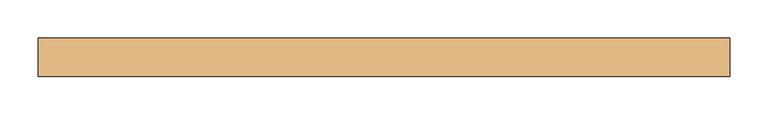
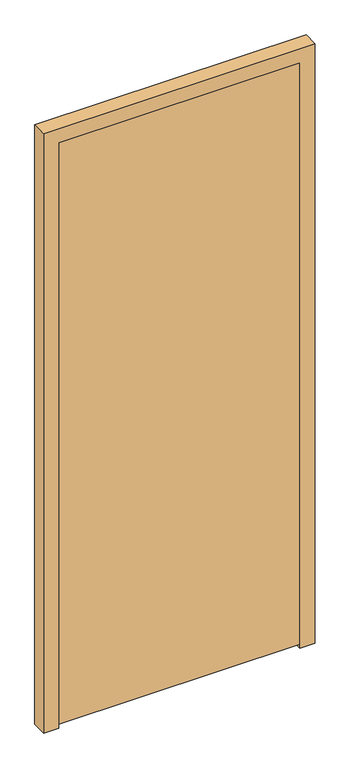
"""IFC4 building model written with IfcOpenShell, lengths in millimetres: door geometry, Dr_Дверь_v2.1 : ДМ Мд1 Зв3 Оп Г Брг 21-9 Л."""

import ifcopenshell
import ifcopenshell.guid

model = None  # the IFC model being written
_history = None  # IfcOwnerHistory: only IFC2X3 demands one
_inside = {}  # id of a spatial element -> (the spatial element, [elements in it])
_under = {}  # id of a project, library or spatial element -> (it, [spatial elements below it])
_declared = {}  # id of a project -> (the project, [libraries it declares])
_typed = {}  # id of a type object -> (the type object, [elements of that type])
_made_of = {}  # id of a material, layer set ... -> (it, [elements and type objects made of it])


def new_model(schema):
    """Start an empty IFC model of exactly this schema.

    Asked for "IFC4X3", IfcOpenShell would pick the latest addendum, in which some entities
    have other attributes; the version numbers below select the first issue.
    IFC2X3 requires an IfcOwnerHistory on every rooted entity: one is made here for all.
    """
    global model, _history
    if schema == "IFC4X3":
        model = ifcopenshell.file(schema_version=(4, 3, 0, 0))
    else:
        model = ifcopenshell.file(schema=schema)
    _inside.clear()
    _under.clear()
    _declared.clear()
    _typed.clear()
    _made_of.clear()
    _history = None
    if model.schema == "IFC2X3":
        org = make("IfcOrganization", Name="unknown")
        user = make(
            "IfcPersonAndOrganization",
            ThePerson=make("IfcPerson", FamilyName="unknown"),
            TheOrganization=org,
        )
        app = make(
            "IfcApplication",
            ApplicationDeveloper=org,
            Version="unknown",
            ApplicationFullName="unknown",
            ApplicationIdentifier="unknown",
        )
        _history = make(
            "IfcOwnerHistory",
            OwningUser=user,
            OwningApplication=app,
            ChangeAction="ADDED",
            CreationDate=0,
        )
    return model


def make(cls, **values):
    """One entity of the class cls with the attributes given. An attribute that is None is left unset."""
    return model.create_entity(
        cls, **{name: value for name, value in values.items() if value is not None}
    )


def rooted(cls, **values):
    """An entity with a GlobalId (a new one), such as an element, a storey or a relation."""
    return make(cls, GlobalId=ifcopenshell.guid.new(), OwnerHistory=_history, **values)


def si_unit(unit_type, name, prefix=None):
    """IfcSIUnit, for example si_unit("LENGTHUNIT", "METRE", prefix="MILLI")."""
    return make("IfcSIUnit", UnitType=unit_type, Prefix=prefix, Name=name)


def assignment(units):
    """IfcUnitAssignment: the units of a project."""
    return None if units is None else make("IfcUnitAssignment", Units=units)


def point(xyz):
    """IfcCartesianPoint."""
    return None if xyz is None else make("IfcCartesianPoint", Coordinates=xyz)


def direction(xyz):
    """IfcDirection."""
    return None if xyz is None else make("IfcDirection", DirectionRatios=xyz)


def frame(location, z_axis=None, x_axis=None):
    """IfcAxis2Placement3D, a coordinate frame: its origin and axes. An axis left out is left unset."""
    return make(
        "IfcAxis2Placement3D",
        Location=point(location),
        Axis=direction(z_axis),
        RefDirection=direction(x_axis),
    )


def origin():
    """The frame at (0, 0, 0) with its axes left unset."""
    return frame((0.0, 0.0, 0.0))


def place(relative_to, where):
    """IfcLocalPlacement: puts the frame where relative to a parent placement (None: the world)."""
    return make(
        "IfcLocalPlacement", PlacementRelTo=relative_to, RelativePlacement=where
    )


def context(
    kind, dimensions, precision=None, world=None, true_north=None, identifier=None
):
    """IfcGeometricRepresentationContext, for example the 3D "Model" context."""
    return make(
        "IfcGeometricRepresentationContext",
        ContextIdentifier=identifier,
        ContextType=kind,
        CoordinateSpaceDimension=dimensions,
        Precision=precision,
        WorldCoordinateSystem=world,
        TrueNorth=true_north,
    )


def project(units=None, contexts=None):
    """IfcProject with its units and contexts."""
    return rooted(
        "IfcProject",
        Name="project",
        RepresentationContexts=contexts,
        UnitsInContext=assignment(units),
    )


def spatial(cls, under=None, at=None, **own):
    """A site, building, storey or space (cls), placed at a placement, below another one or the project."""
    s = rooted(cls, ObjectPlacement=at, **own)
    if under is not None:
        _under.setdefault(under.id(), (under, []))[1].append(s)
    return s


def polyline(points):
    """IfcPolyline through the points."""
    return make("IfcPolyline", Points=[point(p) for p in points])


def outline(outer, holes=None, kind="AREA"):
    """IfcArbitraryClosedProfileDef: a profile drawn as a closed curve; with holes, ...WithVoids."""
    if holes is None:
        return make("IfcArbitraryClosedProfileDef", ProfileType=kind, OuterCurve=outer)
    return make(
        "IfcArbitraryProfileDefWithVoids",
        ProfileType=kind,
        OuterCurve=outer,
        InnerCurves=holes,
    )


def extrude(swept, where, along, depth):
    """IfcExtrudedAreaSolid: the profile swept, set in the frame where, extruded along a direction by depth."""
    return make(
        "IfcExtrudedAreaSolid",
        SweptArea=swept,
        Position=where,
        ExtrudedDirection=direction(along),
        Depth=depth,
    )


def shape(context_of_items, identifier, shape_type, items):
    """IfcShapeRepresentation: the items that make up one representation, for example the "Body"."""
    return make(
        "IfcShapeRepresentation",
        ContextOfItems=context_of_items,
        RepresentationIdentifier=identifier,
        RepresentationType=shape_type,
        Items=items,
    )


def source(mapping_origin, context_of_items, identifier, shape_type, items):
    """IfcRepresentationMap: a shape defined once, which mapped items show again and again."""
    return make(
        "IfcRepresentationMap",
        MappingOrigin=mapping_origin,
        MappedRepresentation=shape(context_of_items, identifier, shape_type, items),
    )


def transform(
    local_origin,
    x_axis=None,
    y_axis=None,
    z_axis=None,
    scale=None,
    scale2=None,
    scale3=None,
    uniform=True,
):
    """IfcCartesianTransformationOperator3D, or its non-uniform kind. x_axis, y_axis, z_axis: its Axis1, 2, 3."""
    if uniform:
        return make(
            "IfcCartesianTransformationOperator3D",
            Axis1=direction(x_axis),
            Axis2=direction(y_axis),
            LocalOrigin=point(local_origin),
            Scale=scale,
            Axis3=direction(z_axis),
        )
    return make(
        "IfcCartesianTransformationOperator3DnonUniform",
        Axis1=direction(x_axis),
        Axis2=direction(y_axis),
        LocalOrigin=point(local_origin),
        Scale=scale,
        Axis3=direction(z_axis),
        Scale2=scale2,
        Scale3=scale3,
    )


def mapped(mapping_source, mapping_target):
    """IfcMappedItem: shows the shape of a source again, moved by a transform."""
    return make(
        "IfcMappedItem", MappingSource=mapping_source, MappingTarget=mapping_target
    )


def made_of(thing, what):
    """Note that an element or type object is made of a material, layer set ...; save() writes the relation."""
    if what is not None:
        _made_of.setdefault(what.id(), (what, []))[1].append(thing)
    return thing


def element(
    cls,
    number,
    at=None,
    inside=None,
    cuts=None,
    type_object=None,
    material=None,
    context=None,
    identifier="Body",
    shape_type=None,
    held_by="IfcProductDefinitionShape",
    body=None,
    shapes=None,
    **own,
):
    """One element of the class cls, such as IfcWall. Its Tag is "e" and its number.

    at: its placement. inside: the storey or other place that contains it. cuts: it is an
    opening in that element (IfcRelVoidsElement). A single representation is given by context,
    identifier, shape_type and body (its items); several are given by shapes. held_by: the class
    of the entity that holds the representations. save() writes the other relations.
    """
    e = rooted(cls, Tag="e%d" % number, ObjectPlacement=at, **own)
    if body is not None:
        shapes = [shape(context, identifier, shape_type, body)]
    if shapes is not None:
        e.Representation = make(held_by, Representations=shapes)
    if inside is not None:
        _inside.setdefault(inside.id(), (inside, []))[1].append(e)
    if cuts is not None:
        rooted(
            "IfcRelVoidsElement", RelatingBuildingElement=cuts, RelatedOpeningElement=e
        )
    if type_object is not None:
        _typed.setdefault(type_object.id(), (type_object, []))[1].append(e)
    return made_of(e, material)


def aggregate(whole, parts):
    """IfcRelAggregates: a whole, such as a stair, and the parts it consists of."""
    return rooted("IfcRelAggregates", RelatingObject=whole, RelatedObjects=parts)


def save(model, path):
    """Write the relations noted so far, then the file.

    IfcRelAggregates (storeys below a building ...), IfcRelContainedInSpatialStructure (elements
    in a storey), IfcRelDefinesByType, IfcRelAssociatesMaterial and IfcRelDeclares: one each for
    every whole, place, type object, material and project.
    """
    for whole, parts in _under.values():
        aggregate(whole, parts)
    for where, things in _inside.values():
        rooted(
            "IfcRelContainedInSpatialStructure",
            RelatedElements=things,
            RelatingStructure=where,
        )
    for kind, things in _typed.values():
        rooted("IfcRelDefinesByType", RelatedObjects=things, RelatingType=kind)
    for what, things in _made_of.values():
        rooted("IfcRelAssociatesMaterial", RelatedObjects=things, RelatingMaterial=what)
    for by, libraries in _declared.values():
        rooted("IfcRelDeclares", RelatingContext=by, RelatedDefinitions=libraries)
    model.write(path)


def door_be61796a(model_context):
    return source(origin(), model_context, "Body", "SweptSolid", [
        extrude(outline(polyline([(0.0, -325.0), (0.0, -275.0), (2050.0, -275.0), (2050.0, 525.0), (0.0, 525.0), (0.0, 575.0), (2100.0, 575.0), (2100.0, -325.0), (0.0, -325.0)])), frame((0.0, 12.5, 0.0), z_axis=(0.0, 1.0, 0.0), x_axis=(0.0, 0.0, 1.0)), (0.0, 0.0, 1.0), 50.0),
        extrude(outline(polyline([(525.0, 42.5), (525.0, 12.5), (-275.0, 12.5), (-275.0, 42.5), (525.0, 42.5)])), frame((0.0, 0.0, 14.0), z_axis=(0.0, 0.0, 1.0), x_axis=(1.0, 0.0, 0.0)), (0.0, 0.0, 1.0), 2036.0),
    ])


if __name__ == "__main__":
    model = new_model("IFC4")
    model_context = context("Model", 3, world=origin())
    ifc_project = project(units=[si_unit("LENGTHUNIT", "METRE", prefix="MILLI")], contexts=[model_context])
    site = spatial("IfcSite", under=ifc_project)
    building = spatial("IfcBuilding", under=site)
    placement = place(None, origin())
    door_shape = door_be61796a(model_context)
    element("IfcDoor", 1, ObjectType="Dr_Дверь_v2.1 : ДМ Мд1 Зв3 Оп Г Брг 21-9 Л", at=placement, inside=building, context=model_context, shape_type="MappedRepresentation", body=[
        mapped(door_shape, transform((0.0, 0.0, 0.0), x_axis=(1.0, 0.0, 0.0), y_axis=(0.0, 1.0, 0.0), z_axis=(0.0, 0.0, 1.0))),
    ])
    save(model, "model.ifc")
